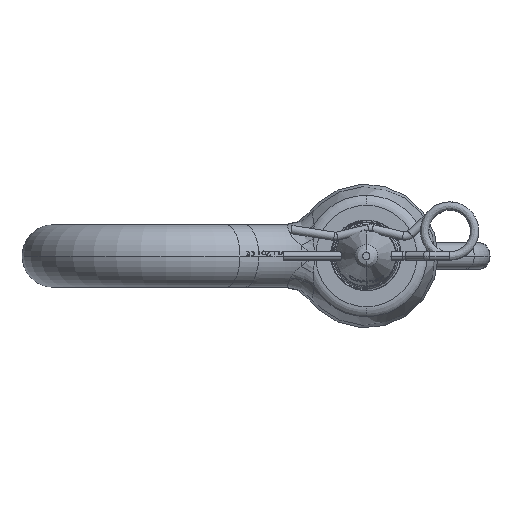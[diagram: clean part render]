
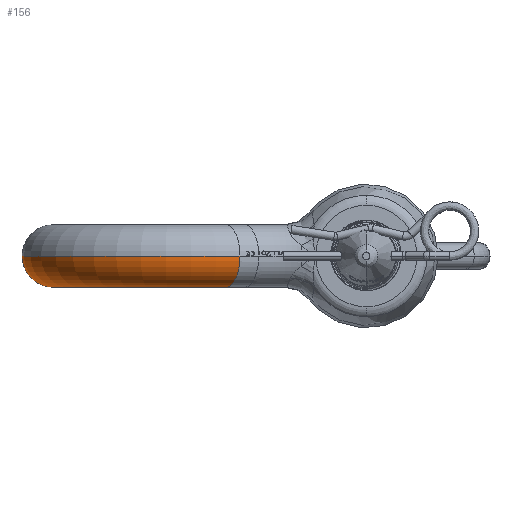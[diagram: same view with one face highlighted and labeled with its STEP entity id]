
A CAD part, left-side view. The second image highlights one B-rep face of the part: STEP entity #156.
In plain terms, the highlighted toroidal (fillet/blend) face has major radius 85.5 mm and minor radius 22.5 mm.
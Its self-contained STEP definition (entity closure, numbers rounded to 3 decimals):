
#156=ADVANCED_FACE('',(#1195),#1196,.T.);
#1195=FACE_OUTER_BOUND('',#3290,.T.);
#1196=TOROIDAL_SURFACE('',#3291,85.5,22.5);
#3290=EDGE_LOOP('',(#20344,#20345,#20346,#20347));
#3291=AXIS2_PLACEMENT_3D('',#20348,#20349,#20350);
#20344=ORIENTED_EDGE('',*,*,#27755,.F.);
#20345=ORIENTED_EDGE('',*,*,#27547,.F.);
#20346=ORIENTED_EDGE('',*,*,#27756,.F.);
#20347=ORIENTED_EDGE('',*,*,#27757,.T.);
#20348=CARTESIAN_POINT('',(0.0,0.0,0.0));
#20349=DIRECTION('',(0.0,-0.0,1.0));
#20350=DIRECTION('',(0.,1.0,0.0));
#27547=EDGE_CURVE('',#30302,#30304,#30305,.T.);
#27755=EDGE_CURVE('',#30304,#30719,#30720,.T.);
#27756=EDGE_CURVE('',#30721,#30302,#30722,.T.);
#27757=EDGE_CURVE('',#30721,#30719,#30723,.T.);
#30302=VERTEX_POINT('',#35086);
#30304=VERTEX_POINT('',#35088);
#30305=CIRCLE('',#35089,22.5);
#30719=VERTEX_POINT('',#36880);
#30720=CIRCLE('',#36881,108.0);
#30721=VERTEX_POINT('',#36882);
#30722=CIRCLE('',#36883,63.0);
#30723=CIRCLE('',#36884,22.5);
#35086=CARTESIAN_POINT('',(0.,63.0,0.));
#35088=CARTESIAN_POINT('',(0.,108.0,0.));
#35089=AXIS2_PLACEMENT_3D('',#61873,#61874,#61875);
#36880=CARTESIAN_POINT('',(-96.226,-49.036,0.));
#36881=AXIS2_PLACEMENT_3D('',#62203,#62204,#62205);
#36882=CARTESIAN_POINT('',(-56.132,-28.604,0.));
#36883=AXIS2_PLACEMENT_3D('',#62206,#62207,#62208);
#36884=AXIS2_PLACEMENT_3D('',#62209,#62210,#62211);
#61873=CARTESIAN_POINT('',(0.,85.5,0.0));
#61874=DIRECTION('',(1.0,0.,-0.0));
#61875=DIRECTION('',(0.,1.0,0.0));
#62203=CARTESIAN_POINT('',(0.0,0.0,0.));
#62204=DIRECTION('',(0.0,-0.0,1.0));
#62205=DIRECTION('',(1.0,0.0,-0.0));
#62206=CARTESIAN_POINT('',(0.0,0.0,0.));
#62207=DIRECTION('',(0.0,0.0,-1.0));
#62208=DIRECTION('',(0.,1.0,0.0));
#62209=CARTESIAN_POINT('',(-76.179,-38.82,0.0));
#62210=DIRECTION('',(-0.454,0.891,0.0));
#62211=DIRECTION('',(0.0,0.0,-1.0));
